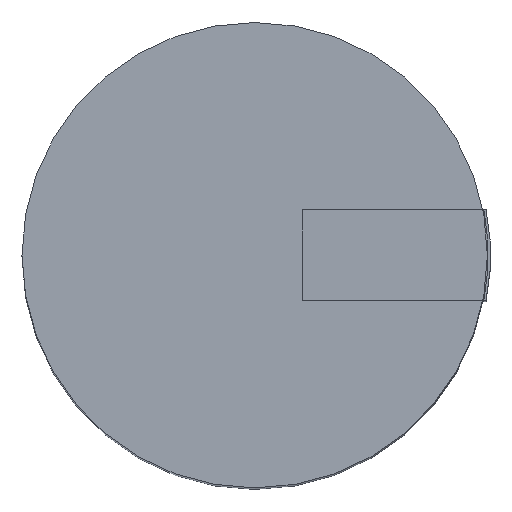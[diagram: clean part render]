
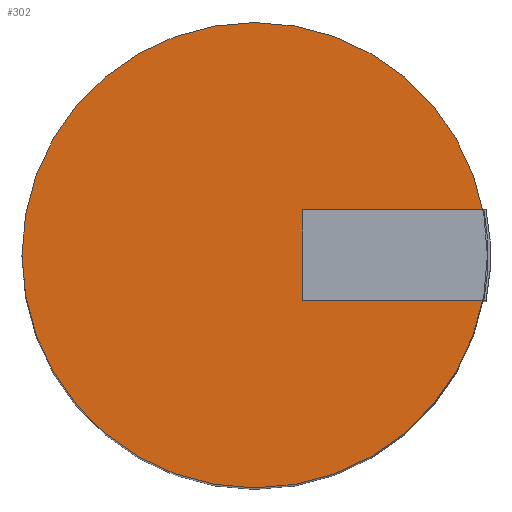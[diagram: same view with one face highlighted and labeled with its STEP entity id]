
A CAD part, top view. The second image highlights one B-rep face of the part: STEP entity #302.
In plain terms, the highlighted planar face has unit normal (0, 0, 1).
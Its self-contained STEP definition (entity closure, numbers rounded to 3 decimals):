
#302=ADVANCED_FACE($,(#308),#304,.T.);
#304=PLANE($,#329);
#308=FACE_OUTER_BOUND($,#312,.T.);
#312=EDGE_LOOP($,(#322));
#313=CIRCLE($,#326,2.629);
#315=VERTEX_POINT('',#344);
#317=EDGE_CURVE($,#315,#315,#313,.T.);
#322=ORIENTED_EDGE($,*,*,#317,.T.);
#326=AXIS2_PLACEMENT_3D($,#345,#334,#335);
#329=AXIS2_PLACEMENT_3D($,#349,#340,#341);
#334=DIRECTION('',(0.,0.,1.));
#335=DIRECTION('',(1.,0.,0.));
#340=DIRECTION('',(0.,0.,1.));
#341=DIRECTION('',(0.,1.,0.));
#344=CARTESIAN_POINT('',(-1.359,0.0,10.109));
#345=CARTESIAN_POINT('',(1.27,0.0,10.109));
#349=CARTESIAN_POINT('',(1.27,0.0,10.109));
